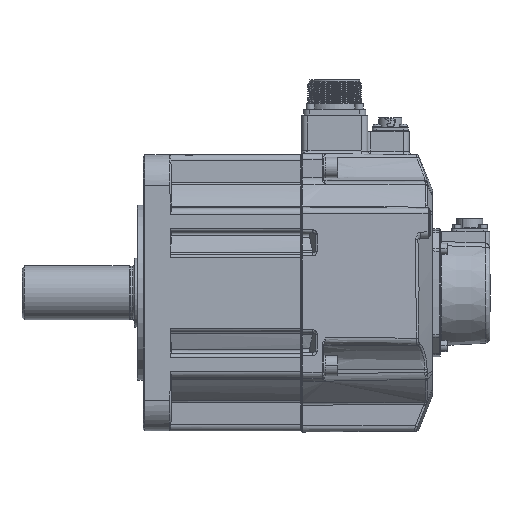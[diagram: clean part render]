
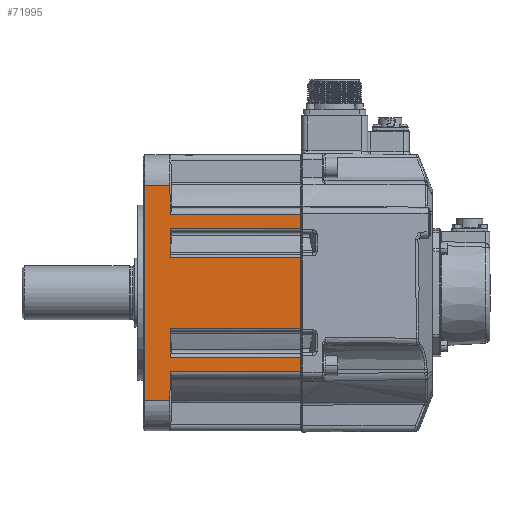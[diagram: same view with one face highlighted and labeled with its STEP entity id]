
A CAD part, left-side view. The second image highlights one B-rep face of the part: STEP entity #71995.
In plain terms, the highlighted planar face has unit normal (-1, 0, 0).
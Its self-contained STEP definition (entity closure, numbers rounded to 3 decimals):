
#19776=CARTESIAN_POINT('',(-90.,9.151,
70.));
#19778=DIRECTION('',(0.,1.,0.));
#19779=VECTOR('',#19778,16.349);
#19780=CARTESIAN_POINT('',(-90.,9.151,
70.));
#19781=LINE('',#19780,#19779);
#20090=DIRECTION('',(0.,0.,-1.));
#20091=VECTOR('',#20090,9.155);
#20092=CARTESIAN_POINT('',(-90.,-76.3,51.103));
#20093=LINE('',#20092,#20091);
#20785=DIRECTION('',(0.,0.,-1.));
#20786=VECTOR('',#20785,9.155);
#20787=CARTESIAN_POINT('',(-90.,-76.3,-41.948));
#20788=LINE('',#20787,#20786);
#21955=CARTESIAN_POINT('',(-90.,9.151,
-70.));
#22011=DIRECTION('',(0.,1.,0.));
#22012=VECTOR('',#22011,84.8);
#22013=CARTESIAN_POINT('',(-90.,-76.3,41.948));
#22014=LINE('',#22013,#22012);
#22015=DIRECTION('',(0.,1.,0.));
#22016=VECTOR('',#22015,84.8);
#22017=CARTESIAN_POINT('',(-90.,-76.3,23.052));
#22018=LINE('',#22017,#22016);
#22019=DIRECTION('',(0.,0.,-1.));
#22020=VECTOR('',#22019,46.103);
#22021=CARTESIAN_POINT('',(-90.,-76.3,23.052));
#22022=LINE('',#22021,#22020);
#22023=DIRECTION('',(0.,1.,0.));
#22024=VECTOR('',#22023,84.8);
#22025=CARTESIAN_POINT('',(-90.,-76.3,-23.052));
#22026=LINE('',#22025,#22024);
#22027=DIRECTION('',(0.,1.,0.));
#22028=VECTOR('',#22027,84.8);
#22029=CARTESIAN_POINT('',(-90.,-76.3,-41.948));
#22030=LINE('',#22029,#22028);
#22031=DIRECTION('',(0.,1.,0.));
#22032=VECTOR('',#22031,85.121);
#22033=CARTESIAN_POINT('',(-90.,-76.3,-51.103));
#22034=LINE('',#22033,#22032);
#22035=DIRECTION('',(0.,1.,0.));
#22036=VECTOR('',#22035,16.349);
#22037=CARTESIAN_POINT('',(-90.,9.151,
-70.));
#22038=LINE('',#22037,#22036);
#22039=DIRECTION('',(0.,0.,1.));
#22040=VECTOR('',#22039,140.);
#22041=CARTESIAN_POINT('',(-90.,25.5,
-70.));
#22042=LINE('',#22041,#22040);
#22043=DIRECTION('',(0.,-1.,0.));
#22044=VECTOR('',#22043,85.121);
#22045=CARTESIAN_POINT('',(-90.,8.821,51.103));
#22046=LINE('',#22045,#22044);
#22139=DIRECTION('',(0.,0.,1.));
#22140=VECTOR('',#22139,18.897);
#22141=CARTESIAN_POINT('',(-90.,8.5,23.052));
#22142=LINE('',#22141,#22140);
#22261=DIRECTION('',(0.,0.,1.));
#22262=VECTOR('',#22261,18.897);
#22263=CARTESIAN_POINT('',(-90.,8.5,-41.948));
#22264=LINE('',#22263,#22262);
#22444=DIRECTION('',(0.,-0.017,1.));
#22445=VECTOR('',#22444,18.9);
#22446=CARTESIAN_POINT('',(-90.,9.151,
-70.));
#22447=LINE('',#22446,#22445);
#22514=DIRECTION('',(0.,0.017,1.));
#22515=VECTOR('',#22514,18.9);
#22516=CARTESIAN_POINT('',(-90.,8.821,51.103));
#22517=LINE('',#22516,#22515);
#41669=CARTESIAN_POINT('',(-90.,25.5,-70.));
#41670=VERTEX_POINT('',#41669);
#41673=CARTESIAN_POINT('',(-90.,25.5,
70.));
#41674=VERTEX_POINT('',#41673);
#41760=VERTEX_POINT('',#19776);
#41763=VERTEX_POINT('',#21955);
#41883=CARTESIAN_POINT('',(-90.,-76.3,41.948));
#41884=CARTESIAN_POINT('',(-90.,8.5,41.948));
#41885=VERTEX_POINT('',#41883);
#41886=VERTEX_POINT('',#41884);
#41895=CARTESIAN_POINT('',(-90.,-76.3,23.052));
#41896=VERTEX_POINT('',#41895);
#41897=CARTESIAN_POINT('',(-90.,8.5,23.052));
#41898=VERTEX_POINT('',#41897);
#41903=CARTESIAN_POINT('',(-90.,-76.3,-41.948));
#41904=VERTEX_POINT('',#41903);
#41905=CARTESIAN_POINT('',(-90.,8.5,-41.948));
#41906=VERTEX_POINT('',#41905);
#41907=CARTESIAN_POINT('',(-90.,-76.3,-23.052));
#41908=CARTESIAN_POINT('',(-90.,8.5,-23.052));
#41909=VERTEX_POINT('',#41907);
#41910=VERTEX_POINT('',#41908);
#42003=CARTESIAN_POINT('',(-90.,-76.3,-51.103));
#42004=CARTESIAN_POINT('',(-90.,8.821,-51.103));
#42005=VERTEX_POINT('',#42003);
#42006=VERTEX_POINT('',#42004);
#42012=CARTESIAN_POINT('',(-90.,-76.3,51.103));
#42014=VERTEX_POINT('',#42012);
#42015=CARTESIAN_POINT('',(-90.,8.821,51.103));
#42016=VERTEX_POINT('',#42015);
#71962=CARTESIAN_POINT('',(-90.,26.5,-70.));
#71963=DIRECTION('',(-1.,0.,0.));
#71964=DIRECTION('',(0.,0.,1.));
#71965=AXIS2_PLACEMENT_3D('',#71962,#71963,#71964);
#71966=PLANE('',#71965);
#71968=ORIENTED_EDGE('',*,*,#71967,.T.);
#71970=ORIENTED_EDGE('',*,*,#71969,.F.);
#71972=ORIENTED_EDGE('',*,*,#71971,.F.);
#71973=ORIENTED_EDGE('',*,*,#70163,.T.);
#71975=ORIENTED_EDGE('',*,*,#71974,.T.);
#71977=ORIENTED_EDGE('',*,*,#71976,.F.);
#71979=ORIENTED_EDGE('',*,*,#71978,.F.);
#71980=ORIENTED_EDGE('',*,*,#70539,.T.);
#71982=ORIENTED_EDGE('',*,*,#71981,.T.);
#71984=ORIENTED_EDGE('',*,*,#71983,.F.);
#71985=ORIENTED_EDGE('',*,*,#71954,.T.);
#71986=ORIENTED_EDGE('',*,*,#69339,.T.);
#71987=ORIENTED_EDGE('',*,*,#69380,.F.);
#71989=ORIENTED_EDGE('',*,*,#71988,.F.);
#71991=ORIENTED_EDGE('',*,*,#71990,.T.);
#71992=ORIENTED_EDGE('',*,*,#69695,.T.);
#71993=EDGE_LOOP('',(#71968,#71970,#71972,#71973,#71975,#71977,#71979,#71980,
#71982,#71984,#71985,#71986,#71987,#71989,#71991,#71992));
#71994=FACE_OUTER_BOUND('',#71993,.F.);
#71995=ADVANCED_FACE('',(#71994),#71966,.T.);
#69339=EDGE_CURVE('',#41670,#41674,#22042,.T.);
#69380=EDGE_CURVE('',#41760,#41674,#19781,.T.);
#69695=EDGE_CURVE('',#42014,#41885,#20093,.T.);
#70163=EDGE_CURVE('',#41896,#41909,#22022,.T.);
#70539=EDGE_CURVE('',#41904,#42005,#20788,.T.);
#71954=EDGE_CURVE('',#41763,#41670,#22038,.T.);
#71967=EDGE_CURVE('',#41885,#41886,#22014,.T.);
#71969=EDGE_CURVE('',#41898,#41886,#22142,.T.);
#71971=EDGE_CURVE('',#41896,#41898,#22018,.T.);
#71974=EDGE_CURVE('',#41909,#41910,#22026,.T.);
#71976=EDGE_CURVE('',#41906,#41910,#22264,.T.);
#71978=EDGE_CURVE('',#41904,#41906,#22030,.T.);
#71981=EDGE_CURVE('',#42005,#42006,#22034,.T.);
#71983=EDGE_CURVE('',#41763,#42006,#22447,.T.);
#71988=EDGE_CURVE('',#42016,#41760,#22517,.T.);
#71990=EDGE_CURVE('',#42016,#42014,#22046,.T.);
